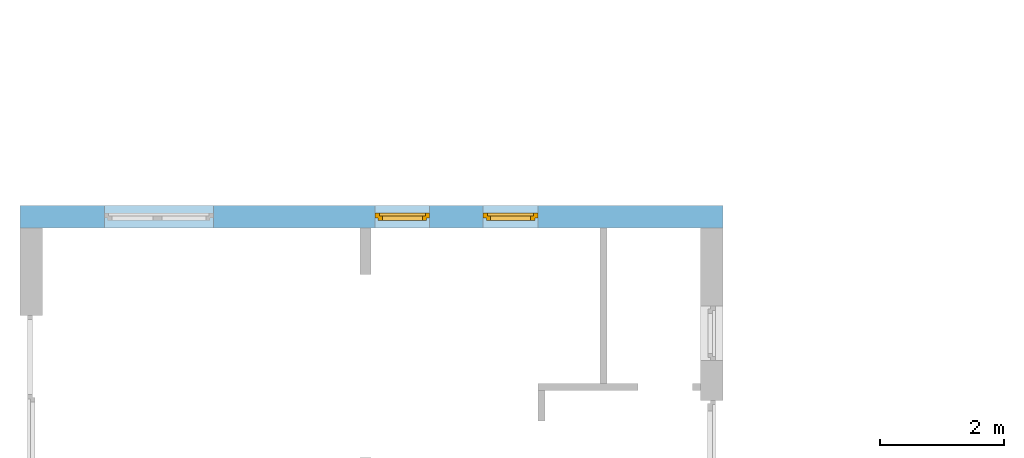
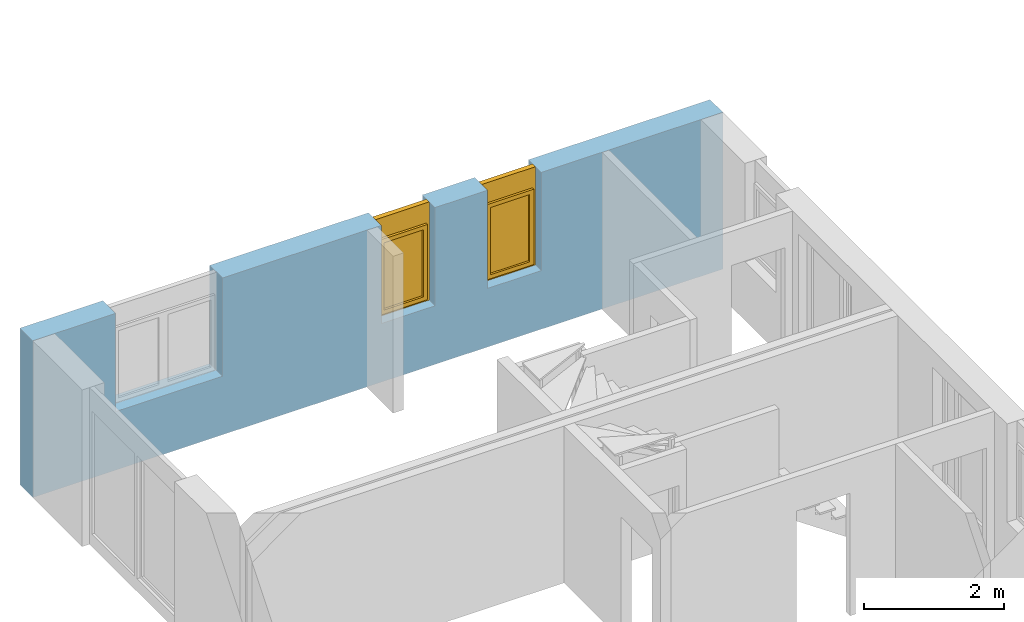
# One storey, part 11 of 41: 2 windows, 3 openings, plus 1 element that does not belong to this part.
"""IFC2X3 building model written with IfcOpenShell, lengths in millimetres."""

from ifc_helpers import new_model, entity, si_unit, converted_unit, frame, frame_2d, origin, origin_with_axes, place, context, subcontext, project, spatial, rectangle, extrude, faceted_brep, material, layer, layer_set, layer_usage, type_object, element, fill, save


model = new_model("IFC2X3")

# Units and contexts
model_context = context("Model", 3, precision=1e-05, world=origin())
body_context = subcontext(model_context, "Body", "Model", "MODEL_VIEW")
ifc_project = project(units=[si_unit("LENGTHUNIT", "METRE", prefix="MILLI"), converted_unit("PLANEANGLEUNIT", "DEGREE", entity("IfcPlaneAngleMeasure", 0.0174532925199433), si_unit("PLANEANGLEUNIT", "RADIAN"), dimensions=[0, 0, 0, 0, 0, 0, 0]), si_unit("AREAUNIT", "SQUARE_METRE"), si_unit("VOLUMEUNIT", "CUBIC_METRE")], contexts=[model_context])

# Building, storey
building_placement = place(None, origin())
building = spatial("IfcBuilding", under=ifc_project, at=building_placement, Name="Gebäude", CompositionType="ELEMENT")
storey_placement = place(building_placement, frame((0.0, 0.0, -200.0), z_axis=(0.0, 0.0, 1.0), x_axis=(1.0, 0.0, 0.0)))
storey = spatial("IfcBuildingStorey", under=building, at=storey_placement, Name="EG.- Grundriss", CompositionType="ELEMENT", Elevation=-200.0)

# Wall, openings, windows
ifc_material_1 = material(Name="Poroton")
ifc_layer = layer(ifc_material_1, 365.0000000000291)
ifc_layer_set = layer_set([ifc_layer])
ifc_layer_usage = layer_usage(ifc_layer_set, "AXIS2", "POSITIVE", 0.0)
wall_placement = place(storey_placement, frame((142357.7928067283, 136889.8877324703, 0.0), z_axis=(0.0, 0.0, 1.0), x_axis=(-1.0, 0.0, 0.0)))
wall = element("IfcWallStandardCase", 1, at=wall_placement, inside=storey, material=ifc_layer_usage, Name="<Unnamed Element>", context=body_context, shape_type="SweptSolid", body=[
    extrude(rectangle(XDim=11365.00000000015, YDim=365.0000000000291, at=frame_2d((5682.500000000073, 182.5000000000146), x_axis=(1.0, 0.0))), origin_with_axes(), (0.0, 0.0, 1.0), 2730.0),
])
opening_1_placement = place(wall_placement, frame((2990.0, 0.0, 1020.0), z_axis=(0.0, 1.0, 0.0), x_axis=(0.0, 0.0, 1.0)))
opening_1 = element("IfcOpeningElement", 2, at=opening_1_placement, cuts=wall, Name="Fensteröffnung", ObjectType="Opening", context=body_context, shape_type="SweptSolid", body=[
    extrude(rectangle(XDim=1710.0, YDim=885.0, at=frame_2d((855.0, 442.5), x_axis=(1.0, 0.0))), origin_with_axes(), (0.0, 0.0, 1.0), 365.0000000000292),
])
opening_2_placement = place(wall_placement, frame((4740.0, 0.0, 1020.0), z_axis=(0.0, 1.0, 0.0), x_axis=(0.0, 0.0, 1.0)))
opening_2 = element("IfcOpeningElement", 3, at=opening_2_placement, cuts=wall, Name="Fensteröffnung", ObjectType="Opening", context=body_context, shape_type="SweptSolid", body=[
    extrude(rectangle(XDim=1710.0, YDim=885.0, at=frame_2d((855.0, 442.5), x_axis=(1.0, 0.0))), origin_with_axes(), (0.0, 0.0, 1.0), 365.0000000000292),
])
opening_3_placement = place(wall_placement, frame((8240.0, 0.0, 1020.0), z_axis=(0.0, 1.0, 0.0), x_axis=(0.0, 0.0, 1.0)))
element("IfcOpeningElement", 4, at=opening_3_placement, cuts=wall, Name="Fensteröffnung", ObjectType="Opening", context=body_context, shape_type="SweptSolid", body=[
    extrude(rectangle(XDim=1710.0, YDim=1760.0, at=frame_2d((854.9999999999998, 880.0), x_axis=(1.0, 0.0))), origin_with_axes(), (0.0, 0.0, 1.0), 365.0000000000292),
])
ifc_material_2 = material()
window_style_1 = type_object("IfcWindowStyle", Name="Fenster", ConstructionType="NOTDEFINED", OperationType="USERDEFINED", ParameterTakesPrecedence=False, Sizeable=False)
window_1_placement = place(opening_1_placement, frame((0.0, 0.0, 0.0), z_axis=(1.0, 0.0, 0.0), x_axis=(0.0, 1.0, 0.0)))
window_1 = element("IfcWindow", 5, at=window_1_placement, inside=storey, type_object=window_style_1, material=ifc_material_2, Name="Fenster", OverallHeight=1710.0, OverallWidth=885.0, context=body_context, shape_type="Brep", body=[
    faceted_brep([(885.0, 200.0000000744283, 1710.0), (815.0000000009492, 200.0000000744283, 1710.0), (815.0000000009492, 200.0000000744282, -2.449293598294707e-15), (885.0, 200.0000000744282, -2.449293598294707e-15), (885.0, 120.0000000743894, 2.449293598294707e-15), (815.0000000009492, 120.0000000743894, 2.449293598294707e-15), (815.0000000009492, 120.0000000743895, 1710.0), (885.0, 120.0000000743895, 1710.0), (885.0, 200.0000000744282, -2.449293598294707e-15), (885.0, 120.0000000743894, 2.449293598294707e-15), (885.0, 120.0000000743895, 1710.0), (885.0, 200.0000000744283, 1710.0), (815.0000000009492, 200.0000000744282, -2.449293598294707e-15), (815.0000000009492, 120.0000000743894, 2.449293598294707e-15), (885.0, 120.0000000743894, 2.449293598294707e-15), (885.0, 200.0000000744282, -2.449293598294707e-15), (815.0000000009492, 200.0000000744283, 1710.0), (815.0000000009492, 120.0000000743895, 1710.0), (815.0000000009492, 120.0000000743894, 2.449293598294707e-15), (815.0000000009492, 200.0000000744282, -2.449293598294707e-15), (885.0, 200.0000000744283, 1710.0), (885.0, 120.0000000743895, 1710.0), (815.0000000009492, 120.0000000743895, 1710.0), (815.0000000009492, 200.0000000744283, 1710.0)], [[[0, 1, 2, 3]], [[4, 5, 6, 7]], [[8, 9, 10, 11]], [[12, 13, 14, 15]], [[16, 17, 18, 19]], [[20, 21, 22, 23]]], orient=[[False], [False], [False], [False], [False], [False]]),
    faceted_brep([(69.99999999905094, 200.0000000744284, 1710.0), (1.13686837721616e-13, 200.0000000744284, 1710.0), (1.13686837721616e-13, 200.0000000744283, -2.449293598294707e-15), (69.99999999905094, 200.0000000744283, -2.449293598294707e-15), (69.99999999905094, 120.0000000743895, 2.449293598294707e-15), (1.13686837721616e-13, 120.0000000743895, 2.449293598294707e-15), (1.13686837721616e-13, 120.0000000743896, 1710.0), (69.99999999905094, 120.0000000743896, 1710.0), (69.99999999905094, 200.0000000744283, -2.449293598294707e-15), (69.99999999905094, 120.0000000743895, 2.449293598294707e-15), (69.99999999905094, 120.0000000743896, 1710.0), (69.99999999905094, 200.0000000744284, 1710.0), (1.13686837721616e-13, 200.0000000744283, -2.449293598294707e-15), (1.13686837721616e-13, 120.0000000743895, 2.449293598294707e-15), (69.99999999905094, 120.0000000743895, 2.449293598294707e-15), (69.99999999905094, 200.0000000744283, -2.449293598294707e-15), (1.13686837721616e-13, 200.0000000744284, 1710.0), (1.13686837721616e-13, 120.0000000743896, 1710.0), (1.13686837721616e-13, 120.0000000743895, 2.449293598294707e-15), (1.13686837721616e-13, 200.0000000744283, -2.449293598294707e-15), (69.99999999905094, 200.0000000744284, 1710.0), (69.99999999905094, 120.0000000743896, 1710.0), (1.13686837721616e-13, 120.0000000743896, 1710.0), (1.13686837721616e-13, 200.0000000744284, 1710.0)], [[[0, 1, 2, 3]], [[4, 5, 6, 7]], [[8, 9, 10, 11]], [[12, 13, 14, 15]], [[16, 17, 18, 19]], [[20, 21, 22, 23]]], orient=[[False], [False], [False], [False], [False], [False]]),
    faceted_brep([(815.0000000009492, 200.0000000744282, 70.0), (69.99999999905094, 200.0000000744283, 70.0), (69.99999999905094, 200.0000000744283, -2.449293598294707e-15), (815.0000000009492, 200.0000000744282, -2.449293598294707e-15), (815.0000000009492, 120.0000000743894, 2.449293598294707e-15), (69.99999999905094, 120.0000000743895, 2.449293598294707e-15), (69.99999999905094, 120.0000000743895, 70.0), (815.0000000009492, 120.0000000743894, 70.0), (815.0000000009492, 200.0000000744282, -2.449293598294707e-15), (815.0000000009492, 120.0000000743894, 2.449293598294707e-15), (815.0000000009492, 120.0000000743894, 70.0), (815.0000000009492, 200.0000000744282, 70.0), (69.99999999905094, 200.0000000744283, -2.449293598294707e-15), (69.99999999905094, 120.0000000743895, 2.449293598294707e-15), (815.0000000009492, 120.0000000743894, 2.449293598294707e-15), (815.0000000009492, 200.0000000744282, -2.449293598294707e-15), (69.99999999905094, 200.0000000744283, 70.0), (69.99999999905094, 120.0000000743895, 70.0), (69.99999999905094, 120.0000000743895, 2.449293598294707e-15), (69.99999999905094, 200.0000000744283, -2.449293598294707e-15), (815.0000000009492, 200.0000000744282, 70.0), (815.0000000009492, 120.0000000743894, 70.0), (69.99999999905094, 120.0000000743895, 70.0), (69.99999999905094, 200.0000000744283, 70.0)], [[[0, 1, 2, 3]], [[4, 5, 6, 7]], [[8, 9, 10, 11]], [[12, 13, 14, 15]], [[16, 17, 18, 19]], [[20, 21, 22, 23]]], orient=[[False], [False], [False], [False], [False], [False]]),
    faceted_brep([(815.0000000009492, 200.0000000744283, 1710.0), (69.99999999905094, 200.0000000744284, 1710.0), (69.99999999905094, 200.0000000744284, 1340.0), (815.0000000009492, 200.0000000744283, 1340.0), (815.0000000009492, 120.0000000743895, 1340.0), (69.99999999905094, 120.0000000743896, 1340.0), (69.99999999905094, 120.0000000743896, 1710.0), (815.0000000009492, 120.0000000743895, 1710.0), (815.0000000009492, 200.0000000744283, 1340.0), (815.0000000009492, 120.0000000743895, 1340.0), (815.0000000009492, 120.0000000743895, 1710.0), (815.0000000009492, 200.0000000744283, 1710.0), (69.99999999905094, 200.0000000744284, 1340.0), (69.99999999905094, 120.0000000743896, 1340.0), (815.0000000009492, 120.0000000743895, 1340.0), (815.0000000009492, 200.0000000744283, 1340.0), (69.99999999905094, 200.0000000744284, 1710.0), (69.99999999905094, 120.0000000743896, 1710.0), (69.99999999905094, 120.0000000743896, 1340.0), (69.99999999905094, 200.0000000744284, 1340.0), (815.0000000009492, 200.0000000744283, 1710.0), (815.0000000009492, 120.0000000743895, 1710.0), (69.99999999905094, 120.0000000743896, 1710.0), (69.99999999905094, 200.0000000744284, 1710.0)], [[[0, 1, 2, 3]], [[4, 5, 6, 7]], [[8, 9, 10, 11]], [[12, 13, 14, 15]], [[16, 17, 18, 19]], [[20, 21, 22, 23]]], orient=[[False], [False], [False], [False], [False], [False]]),
    faceted_brep([(835.000000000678, 240.0000000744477, 1360.0), (765.0000000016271, 240.0000000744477, 1360.0), (765.0000000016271, 240.0000000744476, 50.0), (835.000000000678, 240.0000000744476, 50.0), (835.000000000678, 170.0000000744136, 50.00000000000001), (765.0000000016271, 170.0000000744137, 50.00000000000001), (765.0000000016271, 170.0000000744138, 1360.0), (835.000000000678, 170.0000000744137, 1360.0), (835.000000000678, 240.0000000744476, 50.0), (835.000000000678, 170.0000000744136, 50.00000000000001), (835.000000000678, 170.0000000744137, 1360.0), (835.000000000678, 240.0000000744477, 1360.0), (765.0000000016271, 240.0000000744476, 50.0), (765.0000000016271, 170.0000000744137, 50.00000000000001), (835.000000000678, 170.0000000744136, 50.00000000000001), (835.000000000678, 240.0000000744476, 50.0), (765.0000000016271, 240.0000000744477, 1360.0), (765.0000000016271, 170.0000000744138, 1360.0), (765.0000000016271, 170.0000000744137, 50.00000000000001), (765.0000000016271, 240.0000000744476, 50.0), (835.000000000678, 240.0000000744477, 1360.0), (835.000000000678, 170.0000000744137, 1360.0), (765.0000000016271, 170.0000000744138, 1360.0), (765.0000000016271, 240.0000000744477, 1360.0)], [[[0, 1, 2, 3]], [[4, 5, 6, 7]], [[8, 9, 10, 11]], [[12, 13, 14, 15]], [[16, 17, 18, 19]], [[20, 21, 22, 23]]], orient=[[False], [False], [False], [False], [False], [False]]),
    faceted_brep([(119.999999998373, 240.0000000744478, 1360.0), (49.9999999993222, 240.0000000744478, 1360.0), (49.9999999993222, 240.0000000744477, 50.0), (119.999999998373, 240.0000000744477, 50.0), (119.999999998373, 170.0000000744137, 50.00000000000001), (49.9999999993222, 170.0000000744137, 50.00000000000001), (49.9999999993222, 170.0000000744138, 1360.0), (119.999999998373, 170.0000000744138, 1360.0), (119.999999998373, 240.0000000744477, 50.0), (119.999999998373, 170.0000000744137, 50.00000000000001), (119.999999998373, 170.0000000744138, 1360.0), (119.999999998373, 240.0000000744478, 1360.0), (49.9999999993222, 240.0000000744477, 50.0), (49.9999999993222, 170.0000000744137, 50.00000000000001), (119.999999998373, 170.0000000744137, 50.00000000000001), (119.999999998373, 240.0000000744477, 50.0), (49.9999999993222, 240.0000000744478, 1360.0), (49.9999999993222, 170.0000000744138, 1360.0), (49.9999999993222, 170.0000000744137, 50.00000000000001), (49.9999999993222, 240.0000000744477, 50.0), (119.999999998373, 240.0000000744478, 1360.0), (119.999999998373, 170.0000000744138, 1360.0), (49.9999999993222, 170.0000000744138, 1360.0), (49.9999999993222, 240.0000000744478, 1360.0)], [[[0, 1, 2, 3]], [[4, 5, 6, 7]], [[8, 9, 10, 11]], [[12, 13, 14, 15]], [[16, 17, 18, 19]], [[20, 21, 22, 23]]], orient=[[False], [False], [False], [False], [False], [False]]),
    faceted_brep([(765.0000000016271, 240.0000000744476, 120.0), (119.999999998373, 240.0000000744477, 120.0), (119.999999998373, 240.0000000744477, 50.0), (765.0000000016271, 240.0000000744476, 50.0), (765.0000000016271, 170.0000000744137, 50.00000000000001), (119.999999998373, 170.0000000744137, 50.00000000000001), (119.999999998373, 170.0000000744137, 120.0), (765.0000000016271, 170.0000000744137, 120.0), (765.0000000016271, 240.0000000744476, 50.0), (765.0000000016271, 170.0000000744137, 50.00000000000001), (765.0000000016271, 170.0000000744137, 120.0), (765.0000000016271, 240.0000000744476, 120.0), (119.999999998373, 240.0000000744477, 50.0), (119.999999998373, 170.0000000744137, 50.00000000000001), (765.0000000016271, 170.0000000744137, 50.00000000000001), (765.0000000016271, 240.0000000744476, 50.0), (119.999999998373, 240.0000000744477, 120.0), (119.999999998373, 170.0000000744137, 120.0), (119.999999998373, 170.0000000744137, 50.00000000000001), (119.999999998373, 240.0000000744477, 50.0), (765.0000000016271, 240.0000000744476, 120.0), (765.0000000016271, 170.0000000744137, 120.0), (119.999999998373, 170.0000000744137, 120.0), (119.999999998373, 240.0000000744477, 120.0)], [[[0, 1, 2, 3]], [[4, 5, 6, 7]], [[8, 9, 10, 11]], [[12, 13, 14, 15]], [[16, 17, 18, 19]], [[20, 21, 22, 23]]], orient=[[False], [False], [False], [False], [False], [False]]),
    faceted_brep([(765.0000000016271, 240.0000000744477, 1360.0), (119.999999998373, 240.0000000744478, 1360.0), (119.999999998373, 240.0000000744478, 1290.0), (765.0000000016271, 240.0000000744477, 1290.0), (765.0000000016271, 170.0000000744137, 1290.0), (119.999999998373, 170.0000000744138, 1290.0), (119.999999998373, 170.0000000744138, 1360.0), (765.0000000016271, 170.0000000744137, 1360.0), (765.0000000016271, 240.0000000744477, 1290.0), (765.0000000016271, 170.0000000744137, 1290.0), (765.0000000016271, 170.0000000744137, 1360.0), (765.0000000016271, 240.0000000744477, 1360.0), (119.999999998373, 240.0000000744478, 1290.0), (119.999999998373, 170.0000000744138, 1290.0), (765.0000000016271, 170.0000000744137, 1290.0), (765.0000000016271, 240.0000000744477, 1290.0), (119.999999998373, 240.0000000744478, 1360.0), (119.999999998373, 170.0000000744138, 1360.0), (119.999999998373, 170.0000000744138, 1290.0), (119.999999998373, 240.0000000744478, 1290.0), (765.0000000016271, 240.0000000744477, 1360.0), (765.0000000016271, 170.0000000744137, 1360.0), (119.999999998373, 170.0000000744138, 1360.0), (119.999999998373, 240.0000000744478, 1360.0)], [[[0, 1, 2, 3]], [[4, 5, 6, 7]], [[8, 9, 10, 11]], [[12, 13, 14, 15]], [[16, 17, 18, 19]], [[20, 21, 22, 23]]], orient=[[False], [False], [False], [False], [False], [False]]),
    faceted_brep([(765.0000000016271, 205.0000000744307, 120.0), (765.0000000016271, 205.0000000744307, 1290.0), (119.999999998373, 205.0000000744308, 1290.0), (119.999999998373, 205.0000000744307, 120.0), (765.0000000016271, 204.0000000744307, 120.0), (119.999999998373, 204.0000000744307, 120.0), (119.999999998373, 204.0000000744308, 1290.0), (765.0000000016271, 204.0000000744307, 1290.0), (765.0000000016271, 205.0000000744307, 120.0), (765.0000000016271, 204.0000000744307, 120.0), (765.0000000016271, 204.0000000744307, 1290.0), (765.0000000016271, 205.0000000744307, 1290.0), (765.0000000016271, 205.0000000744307, 1290.0), (765.0000000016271, 204.0000000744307, 1290.0), (119.999999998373, 204.0000000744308, 1290.0), (119.999999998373, 205.0000000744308, 1290.0), (119.999999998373, 205.0000000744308, 1290.0), (119.999999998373, 204.0000000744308, 1290.0), (119.999999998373, 204.0000000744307, 120.0), (119.999999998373, 205.0000000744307, 120.0), (119.999999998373, 205.0000000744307, 120.0), (119.999999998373, 204.0000000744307, 120.0), (765.0000000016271, 204.0000000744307, 120.0), (765.0000000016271, 205.0000000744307, 120.0)], [[[0, 1, 2, 3]], [[4, 5, 6, 7]], [[8, 9, 10, 11]], [[12, 13, 14, 15]], [[16, 17, 18, 19]], [[20, 21, 22, 23]]], orient=[[False], [False], [False], [False], [False], [False]]),
])
fill(opening_1, window_1)
ifc_material_3 = material()
window_style_2 = type_object("IfcWindowStyle", Name="Fenster", ConstructionType="NOTDEFINED", OperationType="USERDEFINED", ParameterTakesPrecedence=False, Sizeable=False)
window_2_placement = place(opening_2_placement, frame((0.0, 0.0, 0.0), z_axis=(1.0, 0.0, 0.0), x_axis=(0.0, 1.0, 0.0)))
window_2 = element("IfcWindow", 6, at=window_2_placement, inside=storey, type_object=window_style_2, material=ifc_material_3, Name="Fenster", OverallHeight=1710.0, OverallWidth=885.0, context=body_context, shape_type="Brep", body=[
    faceted_brep([(885.0, 200.0000000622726, 1710.0), (815.0000000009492, 200.0000000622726, 1710.0), (815.0000000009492, 200.0000000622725, -2.449293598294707e-15), (885.0, 200.0000000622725, -2.449293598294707e-15), (885.0, 120.0000000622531, 2.449293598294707e-15), (815.0000000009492, 120.0000000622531, 2.449293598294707e-15), (815.0000000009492, 120.0000000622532, 1710.0), (885.0, 120.0000000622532, 1710.0), (885.0, 200.0000000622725, -2.449293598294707e-15), (885.0, 120.0000000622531, 2.449293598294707e-15), (885.0, 120.0000000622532, 1710.0), (885.0, 200.0000000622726, 1710.0), (815.0000000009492, 200.0000000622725, -2.449293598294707e-15), (815.0000000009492, 120.0000000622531, 2.449293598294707e-15), (885.0, 120.0000000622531, 2.449293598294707e-15), (885.0, 200.0000000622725, -2.449293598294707e-15), (815.0000000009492, 200.0000000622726, 1710.0), (815.0000000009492, 120.0000000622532, 1710.0), (815.0000000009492, 120.0000000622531, 2.449293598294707e-15), (815.0000000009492, 200.0000000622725, -2.449293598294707e-15), (885.0, 200.0000000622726, 1710.0), (885.0, 120.0000000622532, 1710.0), (815.0000000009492, 120.0000000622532, 1710.0), (815.0000000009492, 200.0000000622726, 1710.0)], [[[0, 1, 2, 3]], [[4, 5, 6, 7]], [[8, 9, 10, 11]], [[12, 13, 14, 15]], [[16, 17, 18, 19]], [[20, 21, 22, 23]]], orient=[[False], [False], [False], [False], [False], [False]]),
    faceted_brep([(69.99999999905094, 200.0000000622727, 1710.0), (1.13686837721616e-13, 200.0000000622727, 1710.0), (1.13686837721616e-13, 200.0000000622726, -2.449293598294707e-15), (69.99999999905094, 200.0000000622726, -2.449293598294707e-15), (69.99999999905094, 120.0000000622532, 2.449293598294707e-15), (1.13686837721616e-13, 120.0000000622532, 2.449293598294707e-15), (1.13686837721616e-13, 120.0000000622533, 1710.0), (69.99999999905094, 120.0000000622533, 1710.0), (69.99999999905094, 200.0000000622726, -2.449293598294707e-15), (69.99999999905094, 120.0000000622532, 2.449293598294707e-15), (69.99999999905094, 120.0000000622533, 1710.0), (69.99999999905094, 200.0000000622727, 1710.0), (1.13686837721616e-13, 200.0000000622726, -2.449293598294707e-15), (1.13686837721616e-13, 120.0000000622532, 2.449293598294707e-15), (69.99999999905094, 120.0000000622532, 2.449293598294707e-15), (69.99999999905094, 200.0000000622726, -2.449293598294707e-15), (1.13686837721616e-13, 200.0000000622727, 1710.0), (1.13686837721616e-13, 120.0000000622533, 1710.0), (1.13686837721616e-13, 120.0000000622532, 2.449293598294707e-15), (1.13686837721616e-13, 200.0000000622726, -2.449293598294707e-15), (69.99999999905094, 200.0000000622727, 1710.0), (69.99999999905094, 120.0000000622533, 1710.0), (1.13686837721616e-13, 120.0000000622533, 1710.0), (1.13686837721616e-13, 200.0000000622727, 1710.0)], [[[0, 1, 2, 3]], [[4, 5, 6, 7]], [[8, 9, 10, 11]], [[12, 13, 14, 15]], [[16, 17, 18, 19]], [[20, 21, 22, 23]]], orient=[[False], [False], [False], [False], [False], [False]]),
    faceted_brep([(815.0000000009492, 200.0000000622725, 70.0), (69.99999999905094, 200.0000000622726, 70.0), (69.99999999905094, 200.0000000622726, -2.449293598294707e-15), (815.0000000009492, 200.0000000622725, -2.449293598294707e-15), (815.0000000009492, 120.0000000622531, 2.449293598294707e-15), (69.99999999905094, 120.0000000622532, 2.449293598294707e-15), (69.99999999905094, 120.0000000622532, 70.0), (815.0000000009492, 120.0000000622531, 70.0), (815.0000000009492, 200.0000000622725, -2.449293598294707e-15), (815.0000000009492, 120.0000000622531, 2.449293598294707e-15), (815.0000000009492, 120.0000000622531, 70.0), (815.0000000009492, 200.0000000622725, 70.0), (69.99999999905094, 200.0000000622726, -2.449293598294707e-15), (69.99999999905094, 120.0000000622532, 2.449293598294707e-15), (815.0000000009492, 120.0000000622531, 2.449293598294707e-15), (815.0000000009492, 200.0000000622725, -2.449293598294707e-15), (69.99999999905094, 200.0000000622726, 70.0), (69.99999999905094, 120.0000000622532, 70.0), (69.99999999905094, 120.0000000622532, 2.449293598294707e-15), (69.99999999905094, 200.0000000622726, -2.449293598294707e-15), (815.0000000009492, 200.0000000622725, 70.0), (815.0000000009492, 120.0000000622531, 70.0), (69.99999999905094, 120.0000000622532, 70.0), (69.99999999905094, 200.0000000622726, 70.0)], [[[0, 1, 2, 3]], [[4, 5, 6, 7]], [[8, 9, 10, 11]], [[12, 13, 14, 15]], [[16, 17, 18, 19]], [[20, 21, 22, 23]]], orient=[[False], [False], [False], [False], [False], [False]]),
    faceted_brep([(815.0000000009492, 200.0000000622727, 1710.0), (69.99999999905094, 200.0000000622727, 1710.0), (69.99999999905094, 200.0000000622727, 1340.0), (815.0000000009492, 200.0000000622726, 1340.0), (815.0000000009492, 120.0000000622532, 1340.0), (69.99999999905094, 120.0000000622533, 1340.0), (69.99999999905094, 120.0000000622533, 1710.0), (815.0000000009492, 120.0000000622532, 1710.0), (815.0000000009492, 200.0000000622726, 1340.0), (815.0000000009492, 120.0000000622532, 1340.0), (815.0000000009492, 120.0000000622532, 1710.0), (815.0000000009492, 200.0000000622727, 1710.0), (69.99999999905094, 200.0000000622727, 1340.0), (69.99999999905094, 120.0000000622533, 1340.0), (815.0000000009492, 120.0000000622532, 1340.0), (815.0000000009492, 200.0000000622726, 1340.0), (69.99999999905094, 200.0000000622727, 1710.0), (69.99999999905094, 120.0000000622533, 1710.0), (69.99999999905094, 120.0000000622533, 1340.0), (69.99999999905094, 200.0000000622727, 1340.0), (815.0000000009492, 200.0000000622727, 1710.0), (815.0000000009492, 120.0000000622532, 1710.0), (69.99999999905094, 120.0000000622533, 1710.0), (69.99999999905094, 200.0000000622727, 1710.0)], [[[0, 1, 2, 3]], [[4, 5, 6, 7]], [[8, 9, 10, 11]], [[12, 13, 14, 15]], [[16, 17, 18, 19]], [[20, 21, 22, 23]]], orient=[[False], [False], [False], [False], [False], [False]]),
    faceted_brep([(835.000000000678, 240.0000000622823, 1360.0), (765.0000000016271, 240.0000000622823, 1360.0), (765.0000000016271, 240.0000000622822, 50.0), (835.000000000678, 240.0000000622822, 50.0), (835.000000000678, 170.0000000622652, 50.00000000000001), (765.0000000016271, 170.0000000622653, 50.00000000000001), (765.0000000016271, 170.0000000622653, 1360.0), (835.000000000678, 170.0000000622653, 1360.0), (835.000000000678, 240.0000000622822, 50.0), (835.000000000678, 170.0000000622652, 50.00000000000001), (835.000000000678, 170.0000000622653, 1360.0), (835.000000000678, 240.0000000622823, 1360.0), (765.0000000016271, 240.0000000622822, 50.0), (765.0000000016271, 170.0000000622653, 50.00000000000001), (835.000000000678, 170.0000000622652, 50.00000000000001), (835.000000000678, 240.0000000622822, 50.0), (765.0000000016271, 240.0000000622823, 1360.0), (765.0000000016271, 170.0000000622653, 1360.0), (765.0000000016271, 170.0000000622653, 50.00000000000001), (765.0000000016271, 240.0000000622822, 50.0), (835.000000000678, 240.0000000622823, 1360.0), (835.000000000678, 170.0000000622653, 1360.0), (765.0000000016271, 170.0000000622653, 1360.0), (765.0000000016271, 240.0000000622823, 1360.0)], [[[0, 1, 2, 3]], [[4, 5, 6, 7]], [[8, 9, 10, 11]], [[12, 13, 14, 15]], [[16, 17, 18, 19]], [[20, 21, 22, 23]]], orient=[[False], [False], [False], [False], [False], [False]]),
    faceted_brep([(119.999999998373, 240.0000000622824, 1360.0), (49.9999999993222, 240.0000000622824, 1360.0), (49.9999999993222, 240.0000000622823, 50.0), (119.999999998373, 240.0000000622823, 50.0), (119.999999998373, 170.0000000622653, 50.00000000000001), (49.9999999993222, 170.0000000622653, 50.00000000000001), (49.9999999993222, 170.0000000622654, 1360.0), (119.999999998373, 170.0000000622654, 1360.0), (119.999999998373, 240.0000000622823, 50.0), (119.999999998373, 170.0000000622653, 50.00000000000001), (119.999999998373, 170.0000000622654, 1360.0), (119.999999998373, 240.0000000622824, 1360.0), (49.9999999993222, 240.0000000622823, 50.0), (49.9999999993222, 170.0000000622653, 50.00000000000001), (119.999999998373, 170.0000000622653, 50.00000000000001), (119.999999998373, 240.0000000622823, 50.0), (49.9999999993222, 240.0000000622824, 1360.0), (49.9999999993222, 170.0000000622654, 1360.0), (49.9999999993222, 170.0000000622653, 50.00000000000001), (49.9999999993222, 240.0000000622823, 50.0), (119.999999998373, 240.0000000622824, 1360.0), (119.999999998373, 170.0000000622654, 1360.0), (49.9999999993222, 170.0000000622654, 1360.0), (49.9999999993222, 240.0000000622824, 1360.0)], [[[0, 1, 2, 3]], [[4, 5, 6, 7]], [[8, 9, 10, 11]], [[12, 13, 14, 15]], [[16, 17, 18, 19]], [[20, 21, 22, 23]]], orient=[[False], [False], [False], [False], [False], [False]]),
    faceted_brep([(765.0000000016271, 240.0000000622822, 120.0), (119.999999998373, 240.0000000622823, 120.0), (119.999999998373, 240.0000000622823, 50.0), (765.0000000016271, 240.0000000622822, 50.0), (765.0000000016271, 170.0000000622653, 50.00000000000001), (119.999999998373, 170.0000000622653, 50.00000000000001), (119.999999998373, 170.0000000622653, 120.0), (765.0000000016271, 170.0000000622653, 120.0), (765.0000000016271, 240.0000000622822, 50.0), (765.0000000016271, 170.0000000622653, 50.00000000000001), (765.0000000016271, 170.0000000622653, 120.0), (765.0000000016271, 240.0000000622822, 120.0), (119.999999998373, 240.0000000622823, 50.0), (119.999999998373, 170.0000000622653, 50.00000000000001), (765.0000000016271, 170.0000000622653, 50.00000000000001), (765.0000000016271, 240.0000000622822, 50.0), (119.999999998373, 240.0000000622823, 120.0), (119.999999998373, 170.0000000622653, 120.0), (119.999999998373, 170.0000000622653, 50.00000000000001), (119.999999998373, 240.0000000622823, 50.0), (765.0000000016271, 240.0000000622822, 120.0), (765.0000000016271, 170.0000000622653, 120.0), (119.999999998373, 170.0000000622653, 120.0), (119.999999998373, 240.0000000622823, 120.0)], [[[0, 1, 2, 3]], [[4, 5, 6, 7]], [[8, 9, 10, 11]], [[12, 13, 14, 15]], [[16, 17, 18, 19]], [[20, 21, 22, 23]]], orient=[[False], [False], [False], [False], [False], [False]]),
    faceted_brep([(765.0000000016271, 240.0000000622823, 1360.0), (119.999999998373, 240.0000000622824, 1360.0), (119.999999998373, 240.0000000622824, 1290.0), (765.0000000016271, 240.0000000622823, 1290.0), (765.0000000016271, 170.0000000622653, 1290.0), (119.999999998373, 170.0000000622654, 1290.0), (119.999999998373, 170.0000000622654, 1360.0), (765.0000000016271, 170.0000000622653, 1360.0), (765.0000000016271, 240.0000000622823, 1290.0), (765.0000000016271, 170.0000000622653, 1290.0), (765.0000000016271, 170.0000000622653, 1360.0), (765.0000000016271, 240.0000000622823, 1360.0), (119.999999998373, 240.0000000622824, 1290.0), (119.999999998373, 170.0000000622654, 1290.0), (765.0000000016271, 170.0000000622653, 1290.0), (765.0000000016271, 240.0000000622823, 1290.0), (119.999999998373, 240.0000000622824, 1360.0), (119.999999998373, 170.0000000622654, 1360.0), (119.999999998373, 170.0000000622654, 1290.0), (119.999999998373, 240.0000000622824, 1290.0), (765.0000000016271, 240.0000000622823, 1360.0), (765.0000000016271, 170.0000000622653, 1360.0), (119.999999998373, 170.0000000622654, 1360.0), (119.999999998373, 240.0000000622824, 1360.0)], [[[0, 1, 2, 3]], [[4, 5, 6, 7]], [[8, 9, 10, 11]], [[12, 13, 14, 15]], [[16, 17, 18, 19]], [[20, 21, 22, 23]]], orient=[[False], [False], [False], [False], [False], [False]]),
    faceted_brep([(765.0000000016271, 205.0000000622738, 120.0), (765.0000000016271, 205.0000000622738, 1290.0), (119.999999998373, 205.0000000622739, 1290.0), (119.999999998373, 205.0000000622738, 120.0), (765.0000000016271, 204.0000000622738, 120.0), (119.999999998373, 204.0000000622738, 120.0), (119.999999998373, 204.0000000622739, 1290.0), (765.0000000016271, 204.0000000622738, 1290.0), (765.0000000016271, 205.0000000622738, 120.0), (765.0000000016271, 204.0000000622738, 120.0), (765.0000000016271, 204.0000000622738, 1290.0), (765.0000000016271, 205.0000000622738, 1290.0), (765.0000000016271, 205.0000000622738, 1290.0), (765.0000000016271, 204.0000000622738, 1290.0), (119.999999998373, 204.0000000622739, 1290.0), (119.999999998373, 205.0000000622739, 1290.0), (119.999999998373, 205.0000000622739, 1290.0), (119.999999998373, 204.0000000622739, 1290.0), (119.999999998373, 204.0000000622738, 120.0), (119.999999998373, 205.0000000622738, 120.0), (119.999999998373, 205.0000000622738, 120.0), (119.999999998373, 204.0000000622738, 120.0), (765.0000000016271, 204.0000000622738, 120.0), (765.0000000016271, 205.0000000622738, 120.0)], [[[0, 1, 2, 3]], [[4, 5, 6, 7]], [[8, 9, 10, 11]], [[12, 13, 14, 15]], [[16, 17, 18, 19]], [[20, 21, 22, 23]]], orient=[[False], [False], [False], [False], [False], [False]]),
])
fill(opening_2, window_2)

save(model, "model.ifc")
